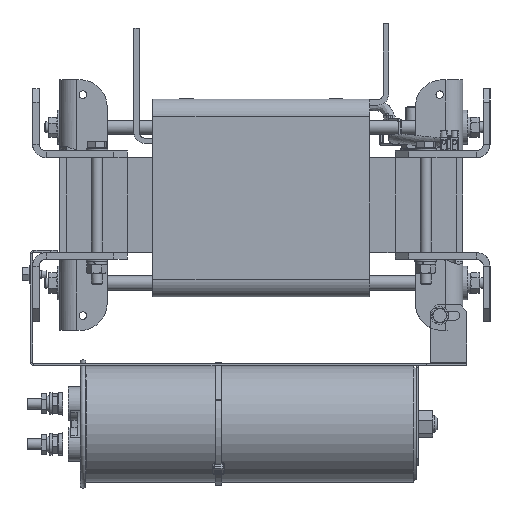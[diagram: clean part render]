
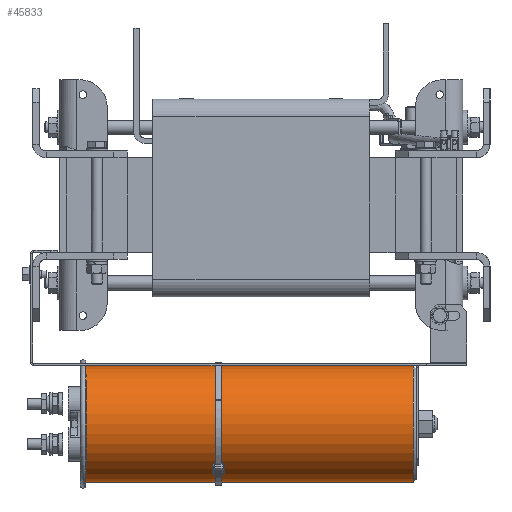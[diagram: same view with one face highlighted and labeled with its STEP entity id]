
A CAD part, left-side view. The second image highlights one B-rep face of the part: STEP entity #45833.
In plain terms, the highlighted cylindrical face has radius 43 mm (diameter 86 mm), a full revolution.
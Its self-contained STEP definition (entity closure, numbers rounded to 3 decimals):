
#1110=FACE_BOUND('',#5793,.T.);
#1111=FACE_BOUND('',#5794,.T.);
#3367=FACE_OUTER_BOUND('',#5792,.T.);
#5792=EDGE_LOOP('',(#30653,#30654,#30655,#30656,#30657,#30658));
#5793=EDGE_LOOP('',(#30659,#30660,#30661,#30662));
#5794=EDGE_LOOP('',(#30663,#30664,#30665,#30666));
#8773=LINE('',#66510,#12805);
#8774=LINE('',#66518,#12806);
#8775=LINE('',#66521,#12807);
#8776=LINE('',#66526,#12808);
#8777=LINE('',#66529,#12809);
#12805=VECTOR('',#53675,43.);
#12806=VECTOR('',#53682,10.);
#12807=VECTOR('',#53685,10.);
#12808=VECTOR('',#53688,10.);
#12809=VECTOR('',#53691,10.);
#16731=CIRCLE('',#48558,43.);
#16732=CIRCLE('',#48559,43.);
#16733=CIRCLE('',#48560,43.);
#16734=CIRCLE('',#48561,43.);
#16735=CIRCLE('',#48562,43.);
#16736=CIRCLE('',#48563,43.);
#16737=CIRCLE('',#48564,43.);
#16738=CIRCLE('',#48565,43.);
#18821=VERTEX_POINT('',#66505);
#18822=VERTEX_POINT('',#66506);
#18823=VERTEX_POINT('',#66509);
#18824=VERTEX_POINT('',#66511);
#18825=VERTEX_POINT('',#66514);
#18826=VERTEX_POINT('',#66515);
#18827=VERTEX_POINT('',#66517);
#18828=VERTEX_POINT('',#66519);
#18829=VERTEX_POINT('',#66522);
#18830=VERTEX_POINT('',#66523);
#18831=VERTEX_POINT('',#66525);
#18832=VERTEX_POINT('',#66527);
#23438=EDGE_CURVE('',#18821,#18822,#16731,.T.);
#23439=EDGE_CURVE('',#18822,#18821,#16732,.T.);
#23440=EDGE_CURVE('',#18821,#18823,#8773,.T.);
#23441=EDGE_CURVE('',#18823,#18824,#16733,.T.);
#23442=EDGE_CURVE('',#18824,#18823,#16734,.T.);
#23443=EDGE_CURVE('',#18825,#18826,#16735,.T.);
#23444=EDGE_CURVE('',#18827,#18825,#8774,.T.);
#23445=EDGE_CURVE('',#18828,#18827,#16736,.T.);
#23446=EDGE_CURVE('',#18826,#18828,#8775,.T.);
#23447=EDGE_CURVE('',#18829,#18830,#16737,.T.);
#23448=EDGE_CURVE('',#18831,#18829,#8776,.T.);
#23449=EDGE_CURVE('',#18832,#18831,#16738,.T.);
#23450=EDGE_CURVE('',#18830,#18832,#8777,.T.);
#30653=ORIENTED_EDGE('',*,*,#23438,.T.);
#30654=ORIENTED_EDGE('',*,*,#23439,.T.);
#30655=ORIENTED_EDGE('',*,*,#23440,.T.);
#30656=ORIENTED_EDGE('',*,*,#23441,.T.);
#30657=ORIENTED_EDGE('',*,*,#23442,.T.);
#30658=ORIENTED_EDGE('',*,*,#23440,.F.);
#30659=ORIENTED_EDGE('',*,*,#23443,.F.);
#30660=ORIENTED_EDGE('',*,*,#23444,.F.);
#30661=ORIENTED_EDGE('',*,*,#23445,.F.);
#30662=ORIENTED_EDGE('',*,*,#23446,.F.);
#30663=ORIENTED_EDGE('',*,*,#23447,.F.);
#30664=ORIENTED_EDGE('',*,*,#23448,.F.);
#30665=ORIENTED_EDGE('',*,*,#23449,.F.);
#30666=ORIENTED_EDGE('',*,*,#23450,.F.);
#42770=CYLINDRICAL_SURFACE('',#48557,43.);
#45833=ADVANCED_FACE('',(#3367,#1110,#1111),#42770,.T.);
#48557=AXIS2_PLACEMENT_3D('',#66504,#53669,#53670);
#48558=AXIS2_PLACEMENT_3D('',#66507,#53671,#53672);
#48559=AXIS2_PLACEMENT_3D('',#66508,#53673,#53674);
#48560=AXIS2_PLACEMENT_3D('',#66512,#53676,#53677);
#48561=AXIS2_PLACEMENT_3D('',#66513,#53678,#53679);
#48562=AXIS2_PLACEMENT_3D('',#66516,#53680,#53681);
#48563=AXIS2_PLACEMENT_3D('',#66520,#53683,#53684);
#48564=AXIS2_PLACEMENT_3D('',#66524,#53686,#53687);
#48565=AXIS2_PLACEMENT_3D('',#66528,#53689,#53690);
#53669=DIRECTION('center_axis',(0.,-1.,0.));
#53670=DIRECTION('ref_axis',(1.,0.,0.));
#53671=DIRECTION('center_axis',(0.,1.,0.));
#53672=DIRECTION('ref_axis',(1.,0.,0.));
#53673=DIRECTION('center_axis',(0.,1.,0.));
#53674=DIRECTION('ref_axis',(1.,0.,0.));
#53675=DIRECTION('',(0.,1.,0.));
#53676=DIRECTION('center_axis',(0.,-1.,0.));
#53677=DIRECTION('ref_axis',(1.,0.,0.));
#53678=DIRECTION('center_axis',(0.,-1.,0.));
#53679=DIRECTION('ref_axis',(1.,0.,0.));
#53680=DIRECTION('center_axis',(0.,-1.,0.));
#53681=DIRECTION('ref_axis',(1.,0.,0.));
#53682=DIRECTION('',(0.,1.,0.));
#53683=DIRECTION('center_axis',(0.,1.,0.));
#53684=DIRECTION('ref_axis',(1.,0.,0.));
#53685=DIRECTION('',(0.,-1.,0.));
#53686=DIRECTION('center_axis',(0.,-1.,0.));
#53687=DIRECTION('ref_axis',(1.,0.,0.));
#53688=DIRECTION('',(0.,1.,0.));
#53689=DIRECTION('center_axis',(0.,1.,0.));
#53690=DIRECTION('ref_axis',(1.,0.,0.));
#53691=DIRECTION('',(0.,-1.,0.));
#66504=CARTESIAN_POINT('Origin',(-110.,-114.2,-161.5));
#66505=CARTESIAN_POINT('',(-153.,-112.2,-161.5));
#66506=CARTESIAN_POINT('',(-67.,-112.2,-161.5));
#66507=CARTESIAN_POINT('Origin',(-110.,-112.2,-161.5));
#66508=CARTESIAN_POINT('Origin',(-110.,-112.2,-161.5));
#66509=CARTESIAN_POINT('',(-153.,130.005,-161.5));
#66510=CARTESIAN_POINT('',(-153.,-114.2,-161.5));
#66511=CARTESIAN_POINT('',(-67.,130.005,-161.5));
#66512=CARTESIAN_POINT('Origin',(-110.,130.005,-161.5));
#66513=CARTESIAN_POINT('Origin',(-110.,130.005,-161.5));
#66514=CARTESIAN_POINT('',(-109.811,44.8,-118.5));
#66515=CARTESIAN_POINT('',(-110.189,44.8,-118.5));
#66516=CARTESIAN_POINT('Origin',(-110.,44.8,-161.5));
#66517=CARTESIAN_POINT('',(-109.811,-36.85,-118.5));
#66518=CARTESIAN_POINT('',(-109.811,-114.2,-118.5));
#66519=CARTESIAN_POINT('',(-110.189,-36.85,-118.5));
#66520=CARTESIAN_POINT('Origin',(-110.,-36.85,-161.5));
#66521=CARTESIAN_POINT('',(-110.189,-114.2,-118.5));
#66522=CARTESIAN_POINT('',(-109.811,114.8,-118.5));
#66523=CARTESIAN_POINT('',(-110.189,114.8,-118.5));
#66524=CARTESIAN_POINT('Origin',(-110.,114.8,-161.5));
#66525=CARTESIAN_POINT('',(-109.811,89.8,-118.5));
#66526=CARTESIAN_POINT('',(-109.811,-114.2,-118.5));
#66527=CARTESIAN_POINT('',(-110.189,89.8,-118.5));
#66528=CARTESIAN_POINT('Origin',(-110.,89.8,-161.5));
#66529=CARTESIAN_POINT('',(-110.189,-114.2,-118.5));
